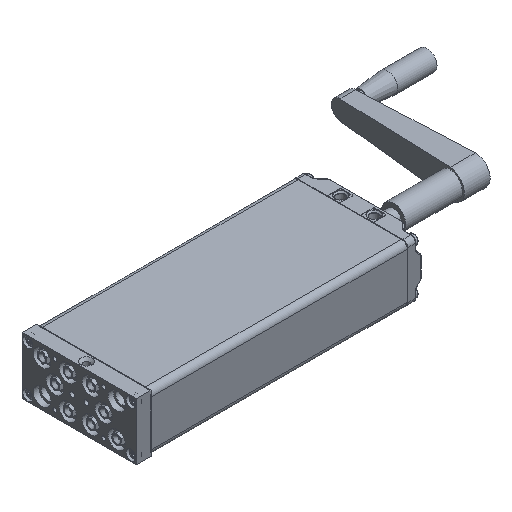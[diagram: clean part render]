
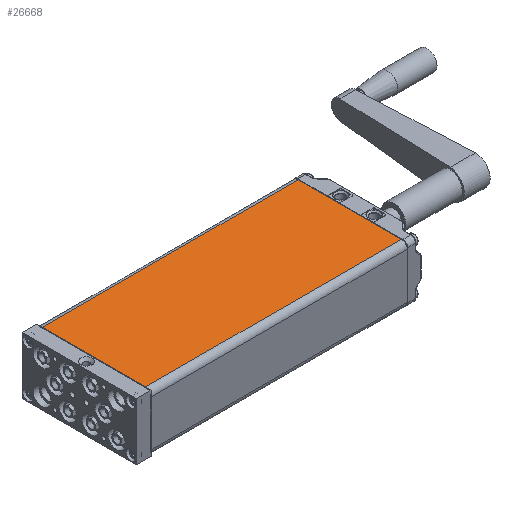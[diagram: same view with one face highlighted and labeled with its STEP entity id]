
A CAD part, isometric view. The second image highlights one B-rep face of the part: STEP entity #26668.
In plain terms, the highlighted planar face has unit normal (0, 0, 1).
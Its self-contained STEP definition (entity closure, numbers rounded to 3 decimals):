
#2499=LINE('',#63595,#3566);
#2500=LINE('',#63598,#3567);
#2501=LINE('',#63600,#3568);
#2502=LINE('',#63602,#3569);
#3566=VECTOR('',#32941,1000.);
#3567=VECTOR('',#32942,1000.);
#3568=VECTOR('',#32943,1000.);
#3569=VECTOR('',#32944,1000.);
#4000=PLANE('',#28500);
#8868=ORIENTED_EDGE('',*,*,#11920,.T.);
#8869=ORIENTED_EDGE('',*,*,#11921,.T.);
#8870=ORIENTED_EDGE('',*,*,#11922,.T.);
#8871=ORIENTED_EDGE('',*,*,#11923,.T.);
#11920=EDGE_CURVE('',#13707,#13708,#2499,.F.);
#11921=EDGE_CURVE('',#13708,#13709,#2500,.T.);
#11922=EDGE_CURVE('',#13709,#13710,#2501,.T.);
#11923=EDGE_CURVE('',#13710,#13707,#2502,.F.);
#13707=VERTEX_POINT('',#63596);
#13708=VERTEX_POINT('',#63597);
#13709=VERTEX_POINT('',#63599);
#13710=VERTEX_POINT('',#63601);
#15937=EDGE_LOOP('',(#8868,#8869,#8870,#8871));
#17482=FACE_BOUND('',#15937,.T.);
#26668=ADVANCED_FACE('',(#17482),#4000,.T.);
#28500=AXIS2_PLACEMENT_3D('',#63594,#32939,#32940);
#32939=DIRECTION('',(0.,0.,1.));
#32940=DIRECTION('',(1.,0.,0.));
#32941=DIRECTION('',(0.,-1.,0.));
#32942=DIRECTION('',(-1.,0.,0.));
#32943=DIRECTION('',(0.,-1.,0.));
#32944=DIRECTION('',(-1.,0.,0.));
#63594=CARTESIAN_POINT('',(60.,268.5,30.));
#63595=CARTESIAN_POINT('',(54.,268.5,30.));
#63596=CARTESIAN_POINT('',(54.,0.5,30.));
#63597=CARTESIAN_POINT('',(54.,268.,30.));
#63598=CARTESIAN_POINT('',(60.,268.,30.));
#63599=CARTESIAN_POINT('',(-54.,268.,30.));
#63600=CARTESIAN_POINT('',(-54.,268.5,30.));
#63601=CARTESIAN_POINT('',(-54.,0.5,30.));
#63602=CARTESIAN_POINT('',(54.,0.5,30.));
